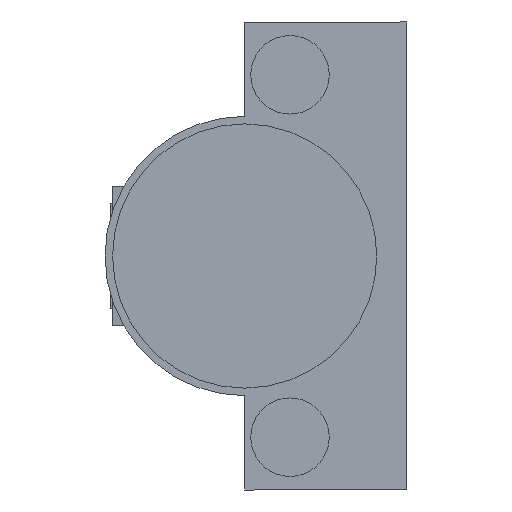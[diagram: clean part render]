
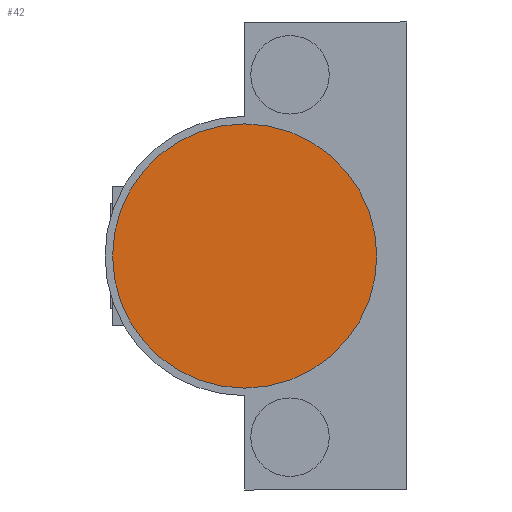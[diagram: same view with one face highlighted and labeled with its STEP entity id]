
A CAD part, front view. The second image highlights one B-rep face of the part: STEP entity #42.
In plain terms, the highlighted planar face has unit normal (0, -1, 0).
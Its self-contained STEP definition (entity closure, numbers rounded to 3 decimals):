
#42 = ADVANCED_FACE ( 'NONE', ( #533 ), #1273, .T. ) ;
#308 = ORIENTED_EDGE ( 'NONE', *, *, #899, .T. ) ;
#321 = ORIENTED_EDGE ( 'NONE', *, *, #852, .T. ) ;
#440 = EDGE_LOOP ( 'NONE', ( #321, #308 ) ) ;
#533 = FACE_OUTER_BOUND ( 'NONE', #440, .T. ) ;
#700 = CIRCLE ( 'NONE', #994, 17.5 ) ;
#777 = CIRCLE ( 'NONE', #1009, 17.5 ) ;
#852 = EDGE_CURVE ( 'NONE', #1045, #1035, #700, .T. ) ;
#899 = EDGE_CURVE ( 'NONE', #1035, #1045, #777, .T. ) ;
#973 = AXIS2_PLACEMENT_3D ( 'NONE', #1272, #1275, #1276 ) ;
#994 = AXIS2_PLACEMENT_3D ( 'NONE', #1493, #1494, #1495 ) ;
#1009 = AXIS2_PLACEMENT_3D ( 'NONE', #1597, #1601, #1602 ) ;
#1035 = VERTEX_POINT ( 'NONE', #1679 ) ;
#1045 = VERTEX_POINT ( 'NONE', #1688 ) ;
#1272 = CARTESIAN_POINT ( 'NONE',  ( 21.5, -12.6, 0. ) ) ;
#1273 = PLANE ( 'NONE',  #973 ) ;
#1275 = DIRECTION ( 'NONE',  ( 0., -1., 0. ) ) ;
#1276 = DIRECTION ( 'NONE',  ( 1., 0., 0. ) ) ;
#1493 = CARTESIAN_POINT ( 'NONE',  ( 21.5, -12.6, 0. ) ) ;
#1494 = DIRECTION ( 'NONE',  ( 0., -1., 0. ) ) ;
#1495 = DIRECTION ( 'NONE',  ( 1., 0., 0. ) ) ;
#1597 = CARTESIAN_POINT ( 'NONE',  ( 21.5, -12.6, 0. ) ) ;
#1601 = DIRECTION ( 'NONE',  ( 0., -1., 0. ) ) ;
#1602 = DIRECTION ( 'NONE',  ( 1., 0., 0. ) ) ;
#1679 = CARTESIAN_POINT ( 'NONE',  ( 39., -12.6, 0. ) ) ;
#1688 = CARTESIAN_POINT ( 'NONE',  ( 4., -12.6, 0. ) ) ;
